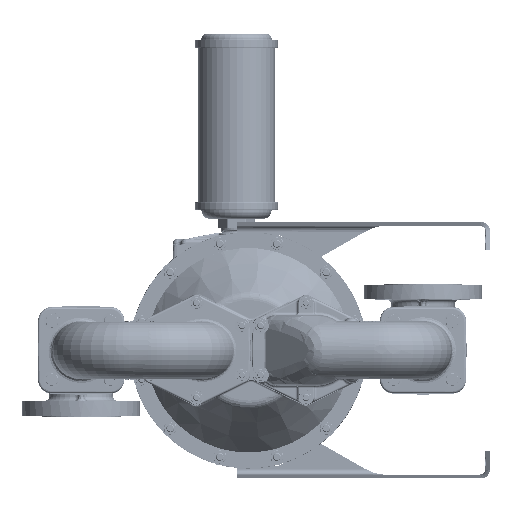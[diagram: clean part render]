
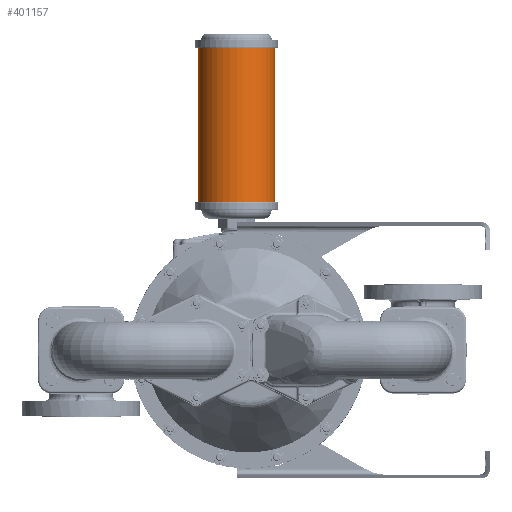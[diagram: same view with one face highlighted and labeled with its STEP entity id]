
A CAD part, left-side view. The second image highlights one B-rep face of the part: STEP entity #401157.
In plain terms, the highlighted cylindrical face has radius 61.722 mm (diameter 123.444 mm), a partial arc.
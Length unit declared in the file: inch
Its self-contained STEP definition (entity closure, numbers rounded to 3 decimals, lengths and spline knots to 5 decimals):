
#8945 = CARTESIAN_POINT ( 'NONE',  ( 0., 0.75, 9.392 ) ) ;
#10618 = CARTESIAN_POINT ( 'NONE',  ( 0., 3.18, 19.172 ) ) ;
#21099 = VERTEX_POINT ( 'NONE', #396444 ) ;
#36948 = CARTESIAN_POINT ( 'NONE',  ( 0., -1.68, 9.392 ) ) ;
#37470 = EDGE_LOOP ( 'NONE', ( #521079, #338047, #59759, #225370 ) ) ;
#58730 = DIRECTION ( 'NONE',  ( 0., 0., -1. ) ) ;
#59759 = ORIENTED_EDGE ( 'NONE', *, *, #538477, .T. ) ;
#66368 = DIRECTION ( 'NONE',  ( 0., 0., -1. ) ) ;
#85871 = DIRECTION ( 'NONE',  ( 0., 0., 1. ) ) ;
#93287 = EDGE_CURVE ( 'NONE', #21099, #217506, #573792, .T. ) ;
#107457 = LINE ( 'NONE', #289303, #140101 ) ;
#129907 = DIRECTION ( 'NONE',  ( 0., 1., 0. ) ) ;
#140101 = VECTOR ( 'NONE', #66368, 39.37008 ) ;
#141025 = DIRECTION ( 'NONE',  ( 0., -1., 0. ) ) ;
#144097 = CIRCLE ( 'NONE', #444031, 2.43 ) ;
#217506 = VERTEX_POINT ( 'NONE', #467662 ) ;
#225370 = ORIENTED_EDGE ( 'NONE', *, *, #352914, .F. ) ;
#257054 = DIRECTION ( 'NONE',  ( 0., 0., 1. ) ) ;
#288581 = VERTEX_POINT ( 'NONE', #561102 ) ;
#289303 = CARTESIAN_POINT ( 'NONE',  ( 0., 3.18, 19.172 ) ) ;
#321139 = VERTEX_POINT ( 'NONE', #10618 ) ;
#338047 = ORIENTED_EDGE ( 'NONE', *, *, #466276, .F. ) ;
#352914 = EDGE_CURVE ( 'NONE', #21099, #288581, #530983, .T. ) ;
#353039 = AXIS2_PLACEMENT_3D ( 'NONE', #8945, #58730, #141025 ) ;
#375991 = FACE_OUTER_BOUND ( 'NONE', #37470, .T. ) ;
#378855 = CARTESIAN_POINT ( 'NONE',  ( 0., 0.75, 20.6595 ) ) ;
#396444 = CARTESIAN_POINT ( 'NONE',  ( 0., -1.68, 9.392 ) ) ;
#400598 = AXIS2_PLACEMENT_3D ( 'NONE', #378855, #569346, #563588 ) ;
#401157 = ADVANCED_FACE ( 'NONE', ( #375991 ), #554862, .T. ) ;
#444031 = AXIS2_PLACEMENT_3D ( 'NONE', #572899, #85871, #129907 ) ;
#466276 = EDGE_CURVE ( 'NONE', #321139, #217506, #144097, .T. ) ;
#467662 = CARTESIAN_POINT ( 'NONE',  ( 0., -1.68, 19.172 ) ) ;
#480130 = VECTOR ( 'NONE', #257054, 39.37008 ) ;
#521079 = ORIENTED_EDGE ( 'NONE', *, *, #93287, .T. ) ;
#530983 = CIRCLE ( 'NONE', #353039, 2.43 ) ;
#538477 = EDGE_CURVE ( 'NONE', #321139, #288581, #107457, .T. ) ;
#554862 = CYLINDRICAL_SURFACE ( 'NONE', #400598, 2.43 ) ;
#561102 = CARTESIAN_POINT ( 'NONE',  ( 0., 3.18, 9.392 ) ) ;
#563588 = DIRECTION ( 'NONE',  ( 0., -1., 0. ) ) ;
#569346 = DIRECTION ( 'NONE',  ( 0., 0., -1. ) ) ;
#572899 = CARTESIAN_POINT ( 'NONE',  ( 0., 0.75, 19.172 ) ) ;
#573792 = LINE ( 'NONE', #36948, #480130 ) ;
